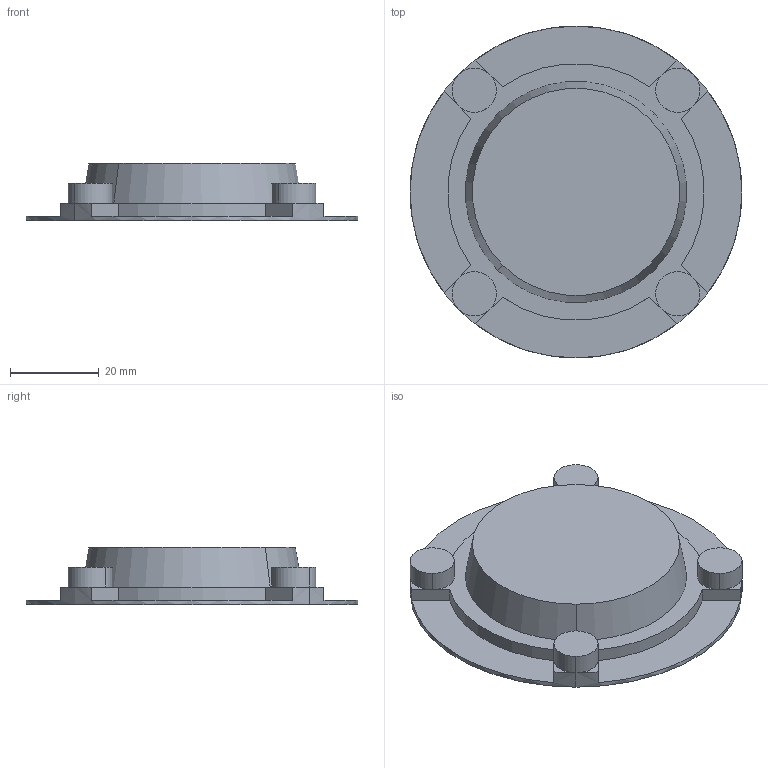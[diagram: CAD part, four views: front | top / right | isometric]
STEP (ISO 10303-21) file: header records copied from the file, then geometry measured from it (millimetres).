
FILE_DESCRIPTION(/* description */ (''),/* implementation_level */ '2;1');
FILE_NAME(/* name */ '4_COPRIMOZZO NMRV030',/* time_stamp */ '2025-10-09T13:56:31+02:00',/* author */ (''),/* organization */ (''),/* preprocessor_version */ 'ST-DEVELOPER v19.2',/* originating_system */ 'Rhino 8.23',/* authorisation */ '');
FILE_SCHEMA (('CONFIG_CONTROL_DESIGN'));
Length unit declared in the file: millimetre
Products named in the file (2): Document; Hollow shaft 30
Bounding box: 75 x 75 x 13 mm (x, y, z)
Volume: 31390.7 mm3; surface area: 11540.2 mm2
Topology: 1 solids, 1 shells, 43 faces, 100 edges, 60 vertices
Faces by surface type: plane 27, cylinder 14, bspline 2
Entity records: 1560 total; most frequent: CARTESIAN_POINT 373, ORIENTED_EDGE 200, DIRECTION 145, EDGE_CURVE 100, AXIS2_PLACEMENT_3D 93, VERTEX_POINT 60, B_SPLINE_CURVE_WITH_KNOTS 52, TRIMMED_CURVE 48
